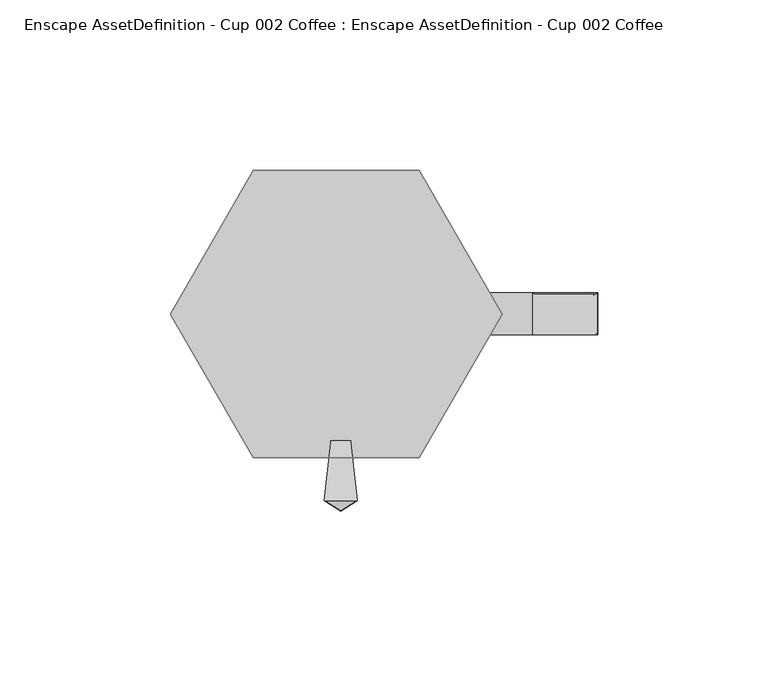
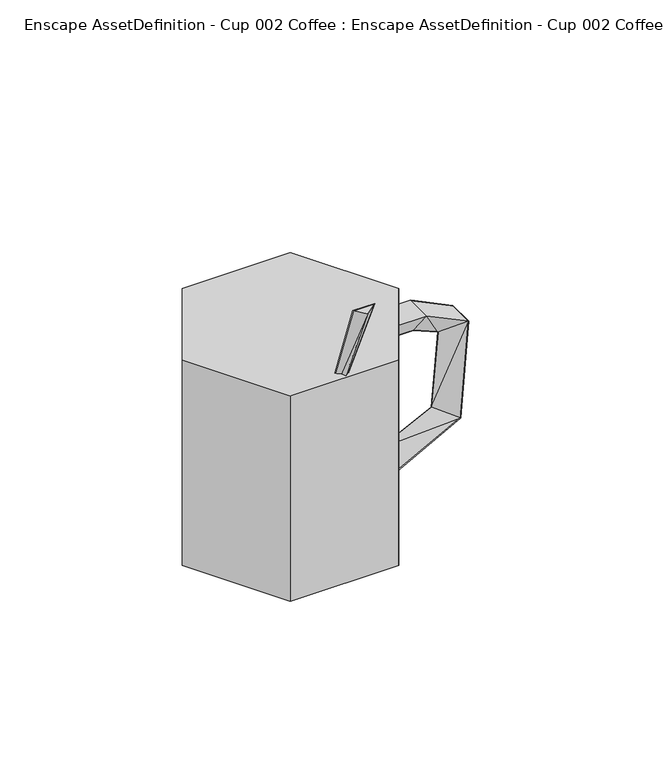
"""IFC4 building model written with IfcOpenShell, lengths in millimetres: geographic element geometry, Enscape AssetDefinition - Cup 002 Coffee : Enscape AssetDefinition - Cup 002 Coffee."""

from ifc_helpers import new_model, si_unit, origin, place, context, project, spatial, triangles, source, transform, mapped, element, save


def enscape_assetdefinition_cup_002_coffee_enscape_aa947409(model_context):
    return source(origin(), model_context, "Body", "Tessellation", [
        triangles([(48.826253, 0.1258307, 0.0), (24.5032918, 42.2543295, 0.0), (24.5032918, 42.2543295, 97.8050948), (48.826253, 0.1258307, 97.8050948), (24.5032918, -42.0036589, 97.8050948), (24.5032918, -42.0036589, 0.0), (-24.1436321, -42.0036589, 97.8050948), (-48.4665956, 0.1258307, 0.0), (-24.1436321, -42.0036589, 0.0), (-48.4665956, 0.1258307, 97.8050948), (-24.1436321, 42.2543295, 97.8050948), (-24.1436321, 42.2543295, 0.0), (41.5132137, 0.2249099, 75.3319434), (55.4625894, 0.2249099, 75.3319434), (41.5132137, 6.3618789, 85.2626554), (41.5132137, -5.9130503, 85.2626554), (76.870644, 6.3618789, 76.1315085), (57.9147971, 6.3618789, 85.2428347), (57.9147971, -5.9130503, 85.2428347), (63.4919639, 0.2249099, 36.1173608), (66.5941365, 0.2249099, 70.7118721), (76.870644, -5.9130503, 76.1315085), (39.8873273, 0.2249099, 24.4468158), (43.2837588, -5.9130503, 15.1145412), (43.2837588, 6.3618789, 15.1145412), (73.3245896, -5.9130503, 31.1515097), (73.3245896, 6.3618789, 31.1515097), (6.419345, -54.6749058, 138.7099653), (-3.3954462, -54.6749058, 138.7099653), (0.0644015, -24.6370477, 68.43008), (1.5119495, -27.748136, 67.1004373), (1.5119495, -57.7859941, 137.3803136), (2.9594975, -24.6370477, 68.43008)], [[33, 30, 29], [29, 28, 33], [31, 33, 28], [32, 29, 30], [30, 31, 32], [28, 32, 31], [32, 28, 29], [27, 25, 23], [25, 27, 26], [26, 24, 25], [23, 24, 26], [23, 20, 27], [26, 20, 23], [17, 27, 20], [27, 17, 22], [22, 26, 27], [20, 26, 22], [20, 21, 17], [18, 17, 21], [22, 21, 20], [17, 18, 19], [19, 22, 17], [21, 22, 19], [16, 19, 18], [18, 15, 16], [21, 14, 18], [15, 18, 14], [19, 14, 21], [14, 13, 15], [19, 16, 13], [13, 14, 19], [12, 8, 10], [10, 11, 12], [11, 10, 7], [7, 10, 8], [8, 9, 7], [5, 7, 9], [9, 6, 5], [5, 4, 7], [4, 11, 7], [4, 5, 6], [4, 3, 11], [11, 3, 2], [2, 12, 11], [6, 1, 4], [3, 4, 1], [1, 2, 3]], closed=False),
    ])


if __name__ == "__main__":
    model = new_model("IFC4")
    model_context = context("Model", 3, world=origin())
    ifc_project = project(units=[si_unit("LENGTHUNIT", "METRE", prefix="MILLI")], contexts=[model_context])
    site = spatial("IfcSite", under=ifc_project)
    building = spatial("IfcBuilding", under=site)
    placement = place(None, origin())
    enscape_assetdefinition_cup_002_coffee_enscape_shape = enscape_assetdefinition_cup_002_coffee_enscape_aa947409(model_context)
    element("IfcGeographicElement", 1, ObjectType="Enscape AssetDefinition - Cup 002 Coffee : Enscape AssetDefinition - Cup 002 Coffee", at=placement, inside=building, context=model_context, shape_type="MappedRepresentation", body=[
        mapped(enscape_assetdefinition_cup_002_coffee_enscape_shape, transform((0.0, 0.0, 0.0), x_axis=(1.0, 0.0, 0.0), y_axis=(0.0, 1.0, 0.0), z_axis=(0.0, 0.0, 1.0))),
    ])
    save(model, "model.ifc")
